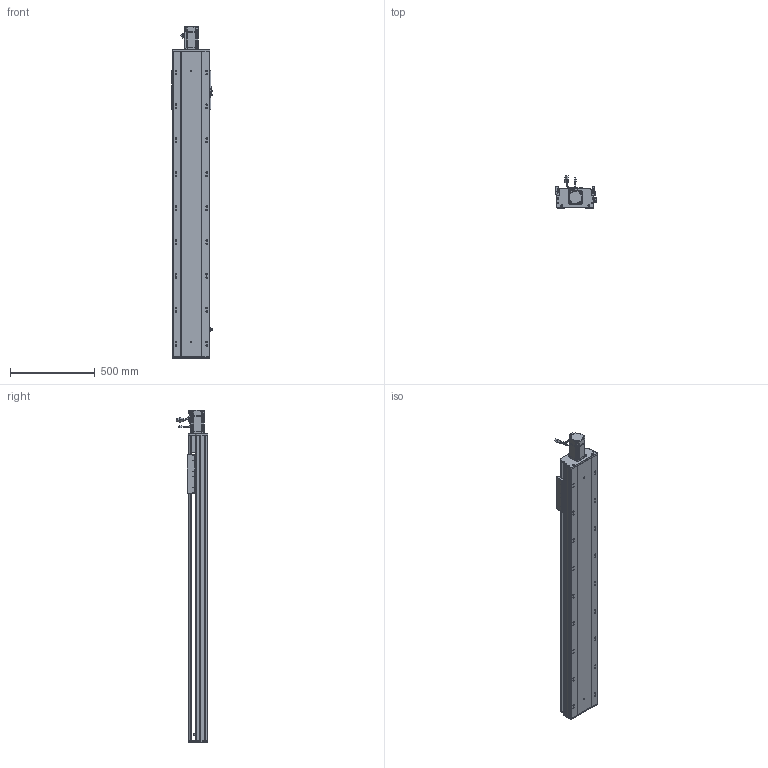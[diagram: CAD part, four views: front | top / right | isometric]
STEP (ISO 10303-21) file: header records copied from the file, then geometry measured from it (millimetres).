
FILE_DESCRIPTION (( 'STEP AP203' ), '1' );
FILE_NAME ('RY220-L2525-300-MK.SLDASM_1400.step', '2022-07-04T02:58:16', ( '' ), ( '' ), 'SwSTEP 2.0', 'SolidWorks 2016', '' );
FILE_SCHEMA (( 'CONFIG_CONTROL_DESIGN' ));
Length unit declared in the file: millimetre
Products named in the file (12): RY220-300-奻裔啣-MK_1400; 覜茼ん672; 滅袉蝶18-15; RY220-俋离672覜茼んえ; 滅袉蝶18-12; RY220ヶ裔啣; RY220半封闭25-32螺母铝滑块; RY220菁釱MK-300_1400; RY220-L2525-300-MK.SLDASM_1400; 怢湛750W_ECMA-CX0807ES; RY220电机支撑座FK20（PCD90M6）; RY220綴裔啣
Assembly tree (15 placements, depth 2):
  RY220-L2525-300-MK.SLDASM_1400
    RY220菁釱MK-300_1400
    RY220电机支撑座FK20（PCD90M6）
    怢湛750W_ECMA-CX0807ES
    滅袉蝶18-12  x2
    RY220ヶ裔啣
    RY220綴裔啣
    覜茼ん672  x3
    RY220半封闭25-32螺母铝滑块
    RY220-300-奻裔啣-MK_1400
    RY220-俋离672覜茼んえ
    滅袉蝶18-15  x2
Bounding box: 238.7 x 187.27 x 1958.3 mm (x, y, z)
Volume: 14962481.4 mm3; surface area: 4275811.1 mm2
Topology: 16 solids, 16 shells, 2298 faces, 6370 edges, 4006 vertices
Faces by surface type: cylinder 1052, plane 907, cone 277, bspline 36, sphere 16, torus 10
Entity records: 75570 total; most frequent: CARTESIAN_POINT 21411, ORIENTED_EDGE 11224, DIRECTION 10683, EDGE_CURVE 5612, AXIS2_PLACEMENT_3D 3783, VERTEX_POINT 3662, LINE 3117, VECTOR 3117
